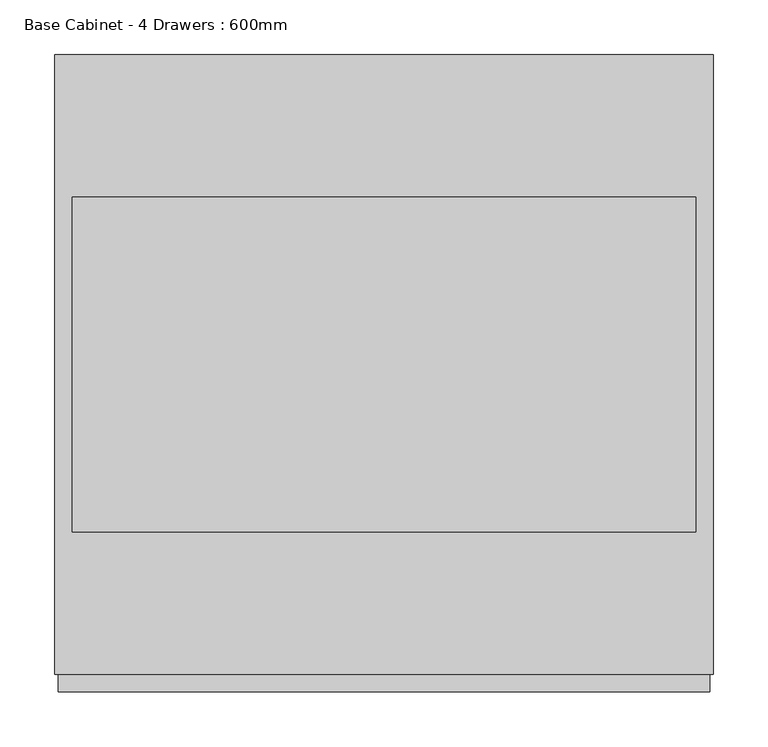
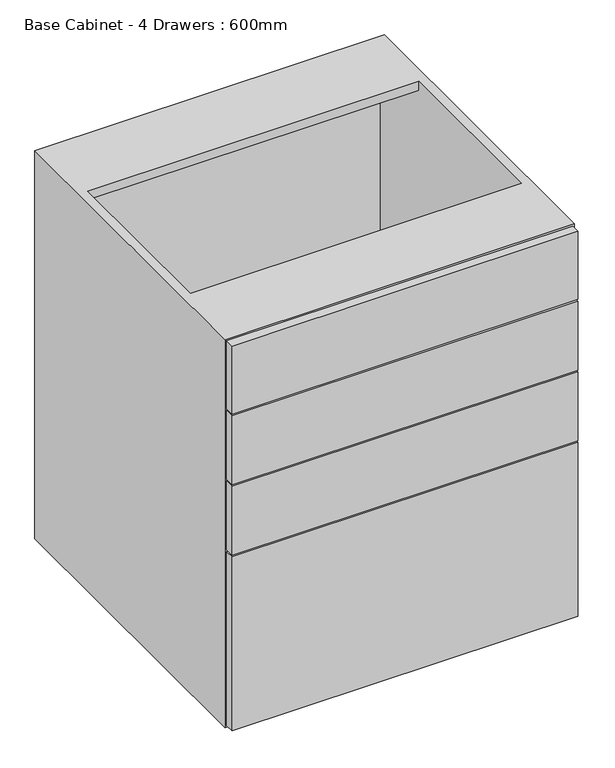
"""IFC4 building model written with IfcOpenShell, lengths in millimetres: furniture geometry, Base Cabinet - 4 Drawers : 600mm."""

from ifc_helpers import new_model, si_unit, frame, origin, place, context, project, spatial, polyline, outline, extrude, faceted_brep, source, transform, mapped, element, save


def base_cabinet_4_drawers_600mm_b76432f2(model_context):
    return source(origin(), model_context, "Body", "SolidModel", [
        extrude(outline(polyline([(341.7003264, -581.0), (-252.2996736, -581.0), (-252.2996736, -565.0), (341.7003264, -565.0), (341.7003264, -581.0)])), frame((0.0, 0.0, 741.5), z_axis=(0.0, 0.0, 1.0), x_axis=(1.0, 0.0, 0.0)), (0.0, 0.0, 1.0), 123.5),
        extrude(outline(polyline([(341.7003264, -581.0), (-252.2996736, -581.0), (-252.2996736, -565.0), (341.7003264, -565.0), (341.7003264, -581.0)])), frame((0.0, 0.0, 167.0), z_axis=(0.0, 0.0, 1.0), x_axis=(1.0, 0.0, 0.0)), (0.0, 0.0, 1.0), 315.5),
        extrude(outline(polyline([(341.7003264, -581.0), (-252.2996736, -581.0), (-252.2996736, -565.0), (341.7003264, -565.0), (341.7003264, -581.0)])), frame((0.0, 0.0, 613.5), z_axis=(0.0, 0.0, 1.0), x_axis=(1.0, 0.0, 0.0)), (0.0, 0.0, 1.0), 125.0),
        extrude(outline(polyline([(341.7003264, -581.0), (-252.2996736, -581.0), (-252.2996736, -565.0), (341.7003264, -565.0), (341.7003264, -581.0)])), frame((0.0, 0.0, 485.5), z_axis=(0.0, 0.0, 1.0), x_axis=(1.0, 0.0, 0.0)), (0.0, 0.0, 1.0), 125.0),
        faceted_brep([(344.7003264, 0.0, 868.0), (344.7003264, 0.0, 164.0), (-255.2996736, 0.0, 164.0), (-255.2996736, 0.0, 868.0), (328.7003264, 0.0, 852.0), (-239.2996736, 0.0, 852.0), (-239.2996736, 0.0, 180.0), (328.7003264, 0.0, 180.0), (344.7003264, -565.0, 868.0), (-255.2996736, -565.0, 868.0), (-255.2996736, -565.0, 164.0), (344.7003264, -565.0, 164.0), (328.7003264, -565.0, 852.0), (328.7003264, -565.0, 180.0), (-239.2996736, -565.0, 180.0), (-239.2996736, -565.0, 852.0), (-239.2996736, -130.0, 868.0), (328.7003264, -130.0, 868.0), (328.7003264, -435.0, 868.0), (-239.2996736, -435.0, 868.0), (328.7003264, -435.0, 852.0), (328.7003264, -130.0, 852.0), (-239.2996736, -130.0, 852.0), (-239.2996736, -435.0, 852.0)], [[[0, 1, 2, 3], [4, 5, 6, 7]], [[8, 9, 10, 11], [12, 13, 14, 15]], [[0, 3, 9, 8], [16, 17, 18, 19]], [[3, 2, 10, 9]], [[2, 1, 11, 10]], [[1, 0, 8, 11]], [[4, 7, 13, 12, 20, 18, 17, 21]], [[7, 6, 14, 13]], [[6, 5, 22, 16, 19, 23, 15, 14]], [[5, 4, 21, 22]], [[12, 15, 23, 20]], [[16, 22, 21, 17]], [[23, 19, 18, 20]]]),
        extrude(outline(polyline([(328.7003264, -10.0), (328.7003264, -16.0), (-239.2996736, -16.0), (-239.2996736, -10.0), (328.7003264, -10.0)])), frame((0.0, 0.0, 180.0), z_axis=(0.0, 0.0, 1.0), x_axis=(1.0, 0.0, 0.0)), (0.0, 0.0, 1.0), 672.0),
    ])


if __name__ == "__main__":
    model = new_model("IFC4")
    model_context = context("Model", 3, world=origin())
    ifc_project = project(units=[si_unit("LENGTHUNIT", "METRE", prefix="MILLI")], contexts=[model_context])
    site = spatial("IfcSite", under=ifc_project)
    building = spatial("IfcBuilding", under=site)
    placement = place(None, origin())
    base_cabinet_4_drawers_600mm_shape = base_cabinet_4_drawers_600mm_b76432f2(model_context)
    element("IfcFurniture", 1, ObjectType="Base Cabinet - 4 Drawers : 600mm", at=placement, inside=building, context=model_context, shape_type="MappedRepresentation", body=[
        mapped(base_cabinet_4_drawers_600mm_shape, transform((0.0, 0.0, 0.0), x_axis=(1.0, 0.0, 0.0), y_axis=(0.0, 1.0, 0.0), z_axis=(0.0, 0.0, 1.0))),
    ])
    save(model, "model.ifc")
